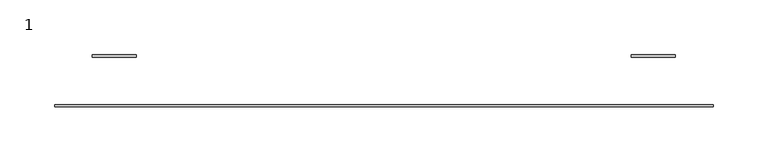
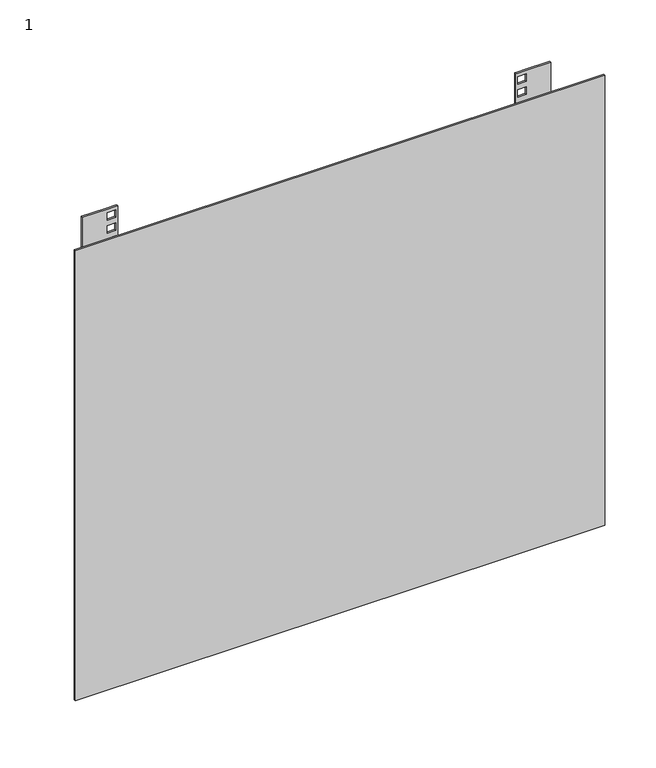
"""IFC4 building model written with IfcOpenShell, lengths in millimetres: proxy geometry, 1 : 12U 600мм металлическая дверь."""

from ifc_helpers import new_model, si_unit, frame, origin, place, context, project, spatial, polyline, outline, extrude, faceted_brep, source, transform, mapped, element, save


def proxy_1_61d2d121(model_context):
    return source(origin(), model_context, "Body", "SolidModel", [
        faceted_brep([(225.3, -252.6777479, 579.4675), (225.3, -254.6777479, 579.4675), (227.55, -254.6777479, 579.4675), (237.05, -254.6777479, 579.4675), (265.3, -254.6777479, 579.4675), (265.3, -252.6777479, 579.4675), (237.05, -252.6777479, 579.4675), (227.55, -252.6777479, 579.4675), (265.3, -252.6777479, 20.4675), (265.3, -254.6777479, 20.4675), (225.3, -254.6777479, 20.4675), (225.3, -252.6777479, 20.4675), (227.55, -254.6777479, 55.0175), (237.05, -254.6777479, 55.0175), (237.05, -254.6777479, 46.0675), (227.55, -254.6777479, 46.0675), (227.55, -254.6777479, 70.6675), (237.05, -254.6777479, 70.6675), (237.05, -254.6777479, 61.7175), (227.55, -254.6777479, 61.7175), (227.55, -254.6777479, 86.3175), (237.05, -254.6777479, 86.3175), (237.05, -254.6777479, 77.3675), (227.55, -254.6777479, 77.3675), (237.05, -254.6777479, 99.4675), (237.05, -254.6777479, 90.5175), (227.55, -254.6777479, 90.5175), (227.55, -254.6777479, 99.4675), (237.05, -254.6777479, 115.1175), (237.05, -254.6777479, 106.1675), (227.55, -254.6777479, 106.1675), (227.55, -254.6777479, 115.1175), (237.05, -254.6777479, 130.7675), (237.05, -254.6777479, 121.8175), (227.55, -254.6777479, 121.8175), (227.55, -254.6777479, 130.7675), (237.05, -254.6777479, 143.9175), (237.05, -254.6777479, 134.9675), (227.55, -254.6777479, 134.9675), (227.55, -254.6777479, 143.9175), (237.05, -254.6777479, 159.5675), (237.05, -254.6777479, 150.6175), (227.55, -254.6777479, 150.6175), (227.55, -254.6777479, 159.5675), (237.05, -254.6777479, 175.2175), (237.05, -254.6777479, 166.2675), (227.55, -254.6777479, 166.2675), (227.55, -254.6777479, 175.2175), (237.05, -254.6777479, 188.3675), (237.05, -254.6777479, 179.4175), (227.55, -254.6777479, 179.4175), (227.55, -254.6777479, 188.3675), (237.05, -254.6777479, 204.0175), (237.05, -254.6777479, 195.0675), (227.55, -254.6777479, 195.0675), (227.55, -254.6777479, 204.0175), (237.05, -254.6777479, 219.6675), (237.05, -254.6777479, 210.7175), (227.55, -254.6777479, 210.7175), (227.55, -254.6777479, 219.6675), (237.05, -254.6777479, 232.8175), (237.05, -254.6777479, 223.8675), (227.55, -254.6777479, 223.8675), (227.55, -254.6777479, 232.8175), (237.05, -254.6777479, 248.4675), (237.05, -254.6777479, 239.5175), (227.55, -254.6777479, 239.5175), (227.55, -254.6777479, 248.4675), (237.05, -254.6777479, 264.1175), (237.05, -254.6777479, 255.1675), (227.55, -254.6777479, 255.1675), (227.55, -254.6777479, 264.1175), (237.05, -254.6777479, 277.2675), (237.05, -254.6777479, 268.3175), (227.55, -254.6777479, 268.3175), (227.55, -254.6777479, 277.2675), (237.05, -254.6777479, 292.9175), (237.05, -254.6777479, 283.9675), (227.55, -254.6777479, 283.9675), (227.55, -254.6777479, 292.9175), (237.05, -254.6777479, 308.5675), (237.05, -254.6777479, 299.6175), (227.55, -254.6777479, 299.6175), (227.55, -254.6777479, 308.5675), (237.05, -254.6777479, 321.7175), (237.05, -254.6777479, 312.7675), (227.55, -254.6777479, 312.7675), (227.55, -254.6777479, 321.7175), (237.05, -254.6777479, 337.3675), (237.05, -254.6777479, 328.4175), (227.55, -254.6777479, 328.4175), (227.55, -254.6777479, 337.3675), (237.05, -254.6777479, 353.0175), (237.05, -254.6777479, 344.0675), (227.55, -254.6777479, 344.0675), (227.55, -254.6777479, 353.0175), (237.05, -254.6777479, 366.1675), (237.05, -254.6777479, 357.2175), (227.55, -254.6777479, 357.2175), (227.55, -254.6777479, 366.1675), (237.05, -254.6777479, 381.8175), (237.05, -254.6777479, 372.8675), (227.55, -254.6777479, 372.8675), (227.55, -254.6777479, 381.8175), (237.05, -254.6777479, 397.4675), (237.05, -254.6777479, 388.5175), (227.55, -254.6777479, 388.5175), (227.55, -254.6777479, 397.4675), (237.05, -254.6777479, 410.6175), (237.05, -254.6777479, 401.6675), (227.55, -254.6777479, 401.6675), (227.55, -254.6777479, 410.6175), (237.05, -254.6777479, 426.2675), (237.05, -254.6777479, 417.3175), (227.55, -254.6777479, 417.3175), (227.55, -254.6777479, 426.2675), (237.05, -254.6777479, 441.9175), (237.05, -254.6777479, 432.9675), (227.55, -254.6777479, 432.9675), (227.55, -254.6777479, 441.9175), (237.05, -254.6777479, 455.0675), (237.05, -254.6777479, 446.1175), (227.55, -254.6777479, 446.1175), (227.55, -254.6777479, 455.0675), (237.05, -254.6777479, 470.7175), (237.05, -254.6777479, 461.7675), (227.55, -254.6777479, 461.7675), (227.55, -254.6777479, 470.7175), (237.05, -254.6777479, 486.3675), (237.05, -254.6777479, 477.4175), (227.55, -254.6777479, 477.4175), (227.55, -254.6777479, 486.3675), (237.05, -254.6777479, 499.5175), (237.05, -254.6777479, 490.5675), (227.55, -254.6777479, 490.5675), (227.55, -254.6777479, 499.5175), (237.05, -254.6777479, 515.1675), (237.05, -254.6777479, 506.2175), (227.55, -254.6777479, 506.2175), (227.55, -254.6777479, 515.1675), (237.05, -254.6777479, 530.8175), (237.05, -254.6777479, 521.8675), (227.55, -254.6777479, 521.8675), (227.55, -254.6777479, 530.8175), (237.05, -254.6777479, 543.9675), (237.05, -254.6777479, 535.0175), (227.55, -254.6777479, 535.0175), (227.55, -254.6777479, 543.9675), (237.05, -254.6777479, 559.6175), (237.05, -254.6777479, 550.6675), (227.55, -254.6777479, 550.6675), (227.55, -254.6777479, 559.6175), (237.05, -254.6777479, 575.2675), (237.05, -254.6777479, 566.3175), (227.55, -254.6777479, 566.3175), (227.55, -254.6777479, 575.2675), (237.05, -252.6777479, 55.0175), (227.55, -252.6777479, 55.0175), (227.55, -252.6777479, 46.0675), (237.05, -252.6777479, 46.0675), (237.05, -252.6777479, 70.6675), (227.55, -252.6777479, 70.6675), (227.55, -252.6777479, 61.7175), (237.05, -252.6777479, 61.7175), (237.05, -252.6777479, 86.3175), (227.55, -252.6777479, 86.3175), (227.55, -252.6777479, 77.3675), (237.05, -252.6777479, 77.3675), (237.05, -252.6777479, 90.5175), (237.05, -252.6777479, 99.4675), (227.55, -252.6777479, 99.4675), (227.55, -252.6777479, 90.5175), (237.05, -252.6777479, 106.1675), (237.05, -252.6777479, 115.1175), (227.55, -252.6777479, 115.1175), (227.55, -252.6777479, 106.1675), (237.05, -252.6777479, 121.8175), (237.05, -252.6777479, 130.7675), (227.55, -252.6777479, 130.7675), (227.55, -252.6777479, 121.8175), (237.05, -252.6777479, 134.9675), (237.05, -252.6777479, 143.9175), (227.55, -252.6777479, 143.9175), (227.55, -252.6777479, 134.9675), (237.05, -252.6777479, 150.6175), (237.05, -252.6777479, 159.5675), (227.55, -252.6777479, 159.5675), (227.55, -252.6777479, 150.6175), (237.05, -252.6777479, 166.2675), (237.05, -252.6777479, 175.2175), (227.55, -252.6777479, 175.2175), (227.55, -252.6777479, 166.2675), (237.05, -252.6777479, 179.4175), (237.05, -252.6777479, 188.3675), (227.55, -252.6777479, 188.3675), (227.55, -252.6777479, 179.4175), (237.05, -252.6777479, 195.0675), (237.05, -252.6777479, 204.0175), (227.55, -252.6777479, 204.0175), (227.55, -252.6777479, 195.0675), (237.05, -252.6777479, 210.7175), (237.05, -252.6777479, 219.6675), (227.55, -252.6777479, 219.6675), (227.55, -252.6777479, 210.7175), (237.05, -252.6777479, 223.8675), (237.05, -252.6777479, 232.8175), (227.55, -252.6777479, 232.8175), (227.55, -252.6777479, 223.8675), (237.05, -252.6777479, 239.5175), (237.05, -252.6777479, 248.4675), (227.55, -252.6777479, 248.4675), (227.55, -252.6777479, 239.5175), (237.05, -252.6777479, 255.1675), (237.05, -252.6777479, 264.1175), (227.55, -252.6777479, 264.1175), (227.55, -252.6777479, 255.1675), (237.05, -252.6777479, 268.3175), (237.05, -252.6777479, 277.2675), (227.55, -252.6777479, 277.2675), (227.55, -252.6777479, 268.3175), (237.05, -252.6777479, 283.9675), (237.05, -252.6777479, 292.9175), (227.55, -252.6777479, 292.9175), (227.55, -252.6777479, 283.9675), (237.05, -252.6777479, 299.6175), (237.05, -252.6777479, 308.5675), (227.55, -252.6777479, 308.5675), (227.55, -252.6777479, 299.6175), (237.05, -252.6777479, 312.7675), (237.05, -252.6777479, 321.7175), (227.55, -252.6777479, 321.7175), (227.55, -252.6777479, 312.7675), (237.05, -252.6777479, 328.4175), (237.05, -252.6777479, 337.3675), (227.55, -252.6777479, 337.3675), (227.55, -252.6777479, 328.4175), (237.05, -252.6777479, 344.0675), (237.05, -252.6777479, 353.0175), (227.55, -252.6777479, 353.0175), (227.55, -252.6777479, 344.0675), (237.05, -252.6777479, 357.2175), (237.05, -252.6777479, 366.1675), (227.55, -252.6777479, 366.1675), (227.55, -252.6777479, 357.2175), (237.05, -252.6777479, 372.8675), (237.05, -252.6777479, 381.8175), (227.55, -252.6777479, 381.8175), (227.55, -252.6777479, 372.8675), (237.05, -252.6777479, 388.5175), (237.05, -252.6777479, 397.4675), (227.55, -252.6777479, 397.4675), (227.55, -252.6777479, 388.5175), (237.05, -252.6777479, 401.6675), (237.05, -252.6777479, 410.6175), (227.55, -252.6777479, 410.6175), (227.55, -252.6777479, 401.6675), (237.05, -252.6777479, 417.3175), (237.05, -252.6777479, 426.2675), (227.55, -252.6777479, 426.2675), (227.55, -252.6777479, 417.3175), (237.05, -252.6777479, 432.9675), (237.05, -252.6777479, 441.9175), (227.55, -252.6777479, 441.9175), (227.55, -252.6777479, 432.9675), (237.05, -252.6777479, 446.1175), (237.05, -252.6777479, 455.0675), (227.55, -252.6777479, 455.0675), (227.55, -252.6777479, 446.1175), (237.05, -252.6777479, 461.7675), (237.05, -252.6777479, 470.7175), (227.55, -252.6777479, 470.7175), (227.55, -252.6777479, 461.7675), (237.05, -252.6777479, 477.4175), (237.05, -252.6777479, 486.3675), (227.55, -252.6777479, 486.3675), (227.55, -252.6777479, 477.4175), (237.05, -252.6777479, 490.5675), (237.05, -252.6777479, 499.5175), (227.55, -252.6777479, 499.5175), (227.55, -252.6777479, 490.5675), (237.05, -252.6777479, 506.2175), (237.05, -252.6777479, 515.1675), (227.55, -252.6777479, 515.1675), (227.55, -252.6777479, 506.2175), (237.05, -252.6777479, 521.8675), (237.05, -252.6777479, 530.8175), (227.55, -252.6777479, 530.8175), (227.55, -252.6777479, 521.8675), (237.05, -252.6777479, 535.0175), (237.05, -252.6777479, 543.9675), (227.55, -252.6777479, 543.9675), (227.55, -252.6777479, 535.0175), (237.05, -252.6777479, 550.6675), (237.05, -252.6777479, 559.6175), (227.55, -252.6777479, 559.6175), (227.55, -252.6777479, 550.6675), (237.05, -252.6777479, 566.3175), (237.05, -252.6777479, 575.2675), (227.55, -252.6777479, 575.2675), (227.55, -252.6777479, 566.3175)], [[[0, 1, 2, 3, 4, 5, 6, 7]], [[8, 9, 10, 11]], [[5, 4, 9, 8]], [[10, 9, 4, 3, 2, 1], [12, 13, 14, 15], [16, 17, 18, 19], [20, 21, 22, 23], [24, 25, 26, 27], [28, 29, 30, 31], [32, 33, 34, 35], [36, 37, 38, 39], [40, 41, 42, 43], [44, 45, 46, 47], [48, 49, 50, 51], [52, 53, 54, 55], [56, 57, 58, 59], [60, 61, 62, 63], [64, 65, 66, 67], [68, 69, 70, 71], [72, 73, 74, 75], [76, 77, 78, 79], [80, 81, 82, 83], [84, 85, 86, 87], [88, 89, 90, 91], [92, 93, 94, 95], [96, 97, 98, 99], [100, 101, 102, 103], [104, 105, 106, 107], [108, 109, 110, 111], [112, 113, 114, 115], [116, 117, 118, 119], [120, 121, 122, 123], [124, 125, 126, 127], [128, 129, 130, 131], [132, 133, 134, 135], [136, 137, 138, 139], [140, 141, 142, 143], [144, 145, 146, 147], [148, 149, 150, 151], [152, 153, 154, 155]], [[1, 0, 11, 10]], [[8, 11, 0, 7, 6, 5], [156, 157, 158, 159], [160, 161, 162, 163], [164, 165, 166, 167], [168, 169, 170, 171], [172, 173, 174, 175], [176, 177, 178, 179], [180, 181, 182, 183], [184, 185, 186, 187], [188, 189, 190, 191], [192, 193, 194, 195], [196, 197, 198, 199], [200, 201, 202, 203], [204, 205, 206, 207], [208, 209, 210, 211], [212, 213, 214, 215], [216, 217, 218, 219], [220, 221, 222, 223], [224, 225, 226, 227], [228, 229, 230, 231], [232, 233, 234, 235], [236, 237, 238, 239], [240, 241, 242, 243], [244, 245, 246, 247], [248, 249, 250, 251], [252, 253, 254, 255], [256, 257, 258, 259], [260, 261, 262, 263], [264, 265, 266, 267], [268, 269, 270, 271], [272, 273, 274, 275], [276, 277, 278, 279], [280, 281, 282, 283], [284, 285, 286, 287], [288, 289, 290, 291], [292, 293, 294, 295], [296, 297, 298, 299]], [[156, 13, 12, 157]], [[157, 12, 15, 158]], [[158, 15, 14, 159]], [[13, 156, 159, 14]], [[160, 17, 16, 161]], [[161, 16, 19, 162]], [[162, 19, 18, 163]], [[17, 160, 163, 18]], [[164, 21, 20, 165]], [[165, 20, 23, 166]], [[166, 23, 22, 167]], [[21, 164, 167, 22]], [[168, 25, 24, 169]], [[25, 168, 171, 26]], [[26, 171, 170, 27]], [[27, 170, 169, 24]], [[172, 29, 28, 173]], [[29, 172, 175, 30]], [[30, 175, 174, 31]], [[31, 174, 173, 28]], [[176, 33, 32, 177]], [[33, 176, 179, 34]], [[34, 179, 178, 35]], [[35, 178, 177, 32]], [[180, 37, 36, 181]], [[37, 180, 183, 38]], [[38, 183, 182, 39]], [[39, 182, 181, 36]], [[184, 41, 40, 185]], [[41, 184, 187, 42]], [[42, 187, 186, 43]], [[43, 186, 185, 40]], [[188, 45, 44, 189]], [[45, 188, 191, 46]], [[46, 191, 190, 47]], [[47, 190, 189, 44]], [[192, 49, 48, 193]], [[49, 192, 195, 50]], [[50, 195, 194, 51]], [[51, 194, 193, 48]], [[196, 53, 52, 197]], [[53, 196, 199, 54]], [[54, 199, 198, 55]], [[55, 198, 197, 52]], [[200, 57, 56, 201]], [[57, 200, 203, 58]], [[58, 203, 202, 59]], [[59, 202, 201, 56]], [[204, 61, 60, 205]], [[61, 204, 207, 62]], [[62, 207, 206, 63]], [[63, 206, 205, 60]], [[208, 65, 64, 209]], [[65, 208, 211, 66]], [[66, 211, 210, 67]], [[67, 210, 209, 64]], [[212, 69, 68, 213]], [[69, 212, 215, 70]], [[70, 215, 214, 71]], [[71, 214, 213, 68]], [[216, 73, 72, 217]], [[73, 216, 219, 74]], [[74, 219, 218, 75]], [[75, 218, 217, 72]], [[220, 77, 76, 221]], [[77, 220, 223, 78]], [[78, 223, 222, 79]], [[79, 222, 221, 76]], [[224, 81, 80, 225]], [[81, 224, 227, 82]], [[82, 227, 226, 83]], [[83, 226, 225, 80]], [[228, 85, 84, 229]], [[85, 228, 231, 86]], [[86, 231, 230, 87]], [[87, 230, 229, 84]], [[232, 89, 88, 233]], [[89, 232, 235, 90]], [[90, 235, 234, 91]], [[91, 234, 233, 88]], [[236, 93, 92, 237]], [[93, 236, 239, 94]], [[94, 239, 238, 95]], [[95, 238, 237, 92]], [[240, 97, 96, 241]], [[97, 240, 243, 98]], [[98, 243, 242, 99]], [[99, 242, 241, 96]], [[244, 101, 100, 245]], [[101, 244, 247, 102]], [[102, 247, 246, 103]], [[103, 246, 245, 100]], [[248, 105, 104, 249]], [[105, 248, 251, 106]], [[106, 251, 250, 107]], [[107, 250, 249, 104]], [[252, 109, 108, 253]], [[109, 252, 255, 110]], [[110, 255, 254, 111]], [[111, 254, 253, 108]], [[256, 113, 112, 257]], [[113, 256, 259, 114]], [[114, 259, 258, 115]], [[115, 258, 257, 112]], [[260, 117, 116, 261]], [[117, 260, 263, 118]], [[118, 263, 262, 119]], [[119, 262, 261, 116]], [[264, 121, 120, 265]], [[121, 264, 267, 122]], [[122, 267, 266, 123]], [[123, 266, 265, 120]], [[268, 125, 124, 269]], [[125, 268, 271, 126]], [[126, 271, 270, 127]], [[127, 270, 269, 124]], [[272, 129, 128, 273]], [[129, 272, 275, 130]], [[130, 275, 274, 131]], [[131, 274, 273, 128]], [[276, 133, 132, 277]], [[133, 276, 279, 134]], [[134, 279, 278, 135]], [[135, 278, 277, 132]], [[280, 137, 136, 281]], [[137, 280, 283, 138]], [[138, 283, 282, 139]], [[139, 282, 281, 136]], [[284, 141, 140, 285]], [[141, 284, 287, 142]], [[142, 287, 286, 143]], [[143, 286, 285, 140]], [[288, 145, 144, 289]], [[145, 288, 291, 146]], [[146, 291, 290, 147]], [[147, 290, 289, 144]], [[292, 149, 148, 293]], [[149, 292, 295, 150]], [[150, 295, 294, 151]], [[151, 294, 293, 148]], [[296, 153, 152, 297]], [[153, 296, 299, 154]], [[154, 299, 298, 155]], [[155, 298, 297, 152]]]),
        faceted_brep([(-265.7, -252.6777479, 579.4675), (-265.7, -254.6777479, 579.4675), (-237.45, -254.6777479, 579.4675), (-227.95, -254.6777479, 579.4675), (-225.7, -254.6777479, 579.4675), (-225.7, -252.6777479, 579.4675), (-227.95, -252.6777479, 579.4675), (-237.45, -252.6777479, 579.4675), (-265.7, -252.6777479, 20.4675), (-225.7, -252.6777479, 20.4675), (-225.7, -254.6777479, 20.4675), (-265.7, -254.6777479, 20.4675), (-237.45, -254.6777479, 55.0175), (-227.95, -254.6777479, 55.0175), (-227.95, -254.6777479, 46.0675), (-237.45, -254.6777479, 46.0675), (-237.45, -254.6777479, 70.6675), (-227.95, -254.6777479, 70.6675), (-227.95, -254.6777479, 61.7175), (-237.45, -254.6777479, 61.7175), (-237.45, -254.6777479, 86.3175), (-227.95, -254.6777479, 86.3175), (-227.95, -254.6777479, 77.3675), (-237.45, -254.6777479, 77.3675), (-237.45, -254.6777479, 90.5175), (-237.45, -254.6777479, 99.4675), (-227.95, -254.6777479, 99.4675), (-227.95, -254.6777479, 90.5175), (-237.45, -254.6777479, 106.1675), (-237.45, -254.6777479, 115.1175), (-227.95, -254.6777479, 115.1175), (-227.95, -254.6777479, 106.1675), (-237.45, -254.6777479, 121.8175), (-237.45, -254.6777479, 130.7675), (-227.95, -254.6777479, 130.7675), (-227.95, -254.6777479, 121.8175), (-237.45, -254.6777479, 134.9675), (-237.45, -254.6777479, 143.9175), (-227.95, -254.6777479, 143.9175), (-227.95, -254.6777479, 134.9675), (-237.45, -254.6777479, 150.6175), (-237.45, -254.6777479, 159.5675), (-227.95, -254.6777479, 159.5675), (-227.95, -254.6777479, 150.6175), (-237.45, -254.6777479, 166.2675), (-237.45, -254.6777479, 175.2175), (-227.95, -254.6777479, 175.2175), (-227.95, -254.6777479, 166.2675), (-237.45, -254.6777479, 179.4175), (-237.45, -254.6777479, 188.3675), (-227.95, -254.6777479, 188.3675), (-227.95, -254.6777479, 179.4175), (-237.45, -254.6777479, 195.0675), (-237.45, -254.6777479, 204.0175), (-227.95, -254.6777479, 204.0175), (-227.95, -254.6777479, 195.0675), (-237.45, -254.6777479, 210.7175), (-237.45, -254.6777479, 219.6675), (-227.95, -254.6777479, 219.6675), (-227.95, -254.6777479, 210.7175), (-237.45, -254.6777479, 223.8675), (-237.45, -254.6777479, 232.8175), (-227.95, -254.6777479, 232.8175), (-227.95, -254.6777479, 223.8675), (-237.45, -254.6777479, 239.5175), (-237.45, -254.6777479, 248.4675), (-227.95, -254.6777479, 248.4675), (-227.95, -254.6777479, 239.5175), (-237.45, -254.6777479, 255.1675), (-237.45, -254.6777479, 264.1175), (-227.95, -254.6777479, 264.1175), (-227.95, -254.6777479, 255.1675), (-237.45, -254.6777479, 268.3175), (-237.45, -254.6777479, 277.2675), (-227.95, -254.6777479, 277.2675), (-227.95, -254.6777479, 268.3175), (-237.45, -254.6777479, 283.9675), (-237.45, -254.6777479, 292.9175), (-227.95, -254.6777479, 292.9175), (-227.95, -254.6777479, 283.9675), (-237.45, -254.6777479, 299.6175), (-237.45, -254.6777479, 308.5675), (-227.95, -254.6777479, 308.5675), (-227.95, -254.6777479, 299.6175), (-237.45, -254.6777479, 312.7675), (-237.45, -254.6777479, 321.7175), (-227.95, -254.6777479, 321.7175), (-227.95, -254.6777479, 312.7675), (-237.45, -254.6777479, 328.4175), (-237.45, -254.6777479, 337.3675), (-227.95, -254.6777479, 337.3675), (-227.95, -254.6777479, 328.4175), (-237.45, -254.6777479, 344.0675), (-237.45, -254.6777479, 353.0175), (-227.95, -254.6777479, 353.0175), (-227.95, -254.6777479, 344.0675), (-237.45, -254.6777479, 357.2175), (-237.45, -254.6777479, 366.1675), (-227.95, -254.6777479, 366.1675), (-227.95, -254.6777479, 357.2175), (-237.45, -254.6777479, 372.8675), (-237.45, -254.6777479, 381.8175), (-227.95, -254.6777479, 381.8175), (-227.95, -254.6777479, 372.8675), (-237.45, -254.6777479, 388.5175), (-237.45, -254.6777479, 397.4675), (-227.95, -254.6777479, 397.4675), (-227.95, -254.6777479, 388.5175), (-237.45, -254.6777479, 401.6675), (-237.45, -254.6777479, 410.6175), (-227.95, -254.6777479, 410.6175), (-227.95, -254.6777479, 401.6675), (-237.45, -254.6777479, 417.3175), (-237.45, -254.6777479, 426.2675), (-227.95, -254.6777479, 426.2675), (-227.95, -254.6777479, 417.3175), (-237.45, -254.6777479, 432.9675), (-237.45, -254.6777479, 441.9175), (-227.95, -254.6777479, 441.9175), (-227.95, -254.6777479, 432.9675), (-237.45, -254.6777479, 446.1175), (-237.45, -254.6777479, 455.0675), (-227.95, -254.6777479, 455.0675), (-227.95, -254.6777479, 446.1175), (-237.45, -254.6777479, 461.7675), (-237.45, -254.6777479, 470.7175), (-227.95, -254.6777479, 470.7175), (-227.95, -254.6777479, 461.7675), (-237.45, -254.6777479, 477.4175), (-237.45, -254.6777479, 486.3675), (-227.95, -254.6777479, 486.3675), (-227.95, -254.6777479, 477.4175), (-237.45, -254.6777479, 490.5675), (-237.45, -254.6777479, 499.5175), (-227.95, -254.6777479, 499.5175), (-227.95, -254.6777479, 490.5675), (-237.45, -254.6777479, 506.2175), (-237.45, -254.6777479, 515.1675), (-227.95, -254.6777479, 515.1675), (-227.95, -254.6777479, 506.2175), (-237.45, -254.6777479, 521.8675), (-237.45, -254.6777479, 530.8175), (-227.95, -254.6777479, 530.8175), (-227.95, -254.6777479, 521.8675), (-237.45, -254.6777479, 535.0175), (-237.45, -254.6777479, 543.9675), (-227.95, -254.6777479, 543.9675), (-227.95, -254.6777479, 535.0175), (-237.45, -254.6777479, 550.6675), (-237.45, -254.6777479, 559.6175), (-227.95, -254.6777479, 559.6175), (-227.95, -254.6777479, 550.6675), (-237.45, -254.6777479, 566.3175), (-237.45, -254.6777479, 575.2675), (-227.95, -254.6777479, 575.2675), (-227.95, -254.6777479, 566.3175), (-227.95, -252.6777479, 55.0175), (-237.45, -252.6777479, 55.0175), (-237.45, -252.6777479, 46.0675), (-227.95, -252.6777479, 46.0675), (-227.95, -252.6777479, 70.6675), (-237.45, -252.6777479, 70.6675), (-237.45, -252.6777479, 61.7175), (-227.95, -252.6777479, 61.7175), (-227.95, -252.6777479, 86.3175), (-237.45, -252.6777479, 86.3175), (-237.45, -252.6777479, 77.3675), (-227.95, -252.6777479, 77.3675), (-237.45, -252.6777479, 99.4675), (-237.45, -252.6777479, 90.5175), (-227.95, -252.6777479, 90.5175), (-227.95, -252.6777479, 99.4675), (-237.45, -252.6777479, 115.1175), (-237.45, -252.6777479, 106.1675), (-227.95, -252.6777479, 106.1675), (-227.95, -252.6777479, 115.1175), (-237.45, -252.6777479, 130.7675), (-237.45, -252.6777479, 121.8175), (-227.95, -252.6777479, 121.8175), (-227.95, -252.6777479, 130.7675), (-237.45, -252.6777479, 143.9175), (-237.45, -252.6777479, 134.9675), (-227.95, -252.6777479, 134.9675), (-227.95, -252.6777479, 143.9175), (-237.45, -252.6777479, 159.5675), (-237.45, -252.6777479, 150.6175), (-227.95, -252.6777479, 150.6175), (-227.95, -252.6777479, 159.5675), (-237.45, -252.6777479, 175.2175), (-237.45, -252.6777479, 166.2675), (-227.95, -252.6777479, 166.2675), (-227.95, -252.6777479, 175.2175), (-237.45, -252.6777479, 188.3675), (-237.45, -252.6777479, 179.4175), (-227.95, -252.6777479, 179.4175), (-227.95, -252.6777479, 188.3675), (-237.45, -252.6777479, 204.0175), (-237.45, -252.6777479, 195.0675), (-227.95, -252.6777479, 195.0675), (-227.95, -252.6777479, 204.0175), (-237.45, -252.6777479, 219.6675), (-237.45, -252.6777479, 210.7175), (-227.95, -252.6777479, 210.7175), (-227.95, -252.6777479, 219.6675), (-237.45, -252.6777479, 232.8175), (-237.45, -252.6777479, 223.8675), (-227.95, -252.6777479, 223.8675), (-227.95, -252.6777479, 232.8175), (-237.45, -252.6777479, 248.4675), (-237.45, -252.6777479, 239.5175), (-227.95, -252.6777479, 239.5175), (-227.95, -252.6777479, 248.4675), (-237.45, -252.6777479, 264.1175), (-237.45, -252.6777479, 255.1675), (-227.95, -252.6777479, 255.1675), (-227.95, -252.6777479, 264.1175), (-237.45, -252.6777479, 277.2675), (-237.45, -252.6777479, 268.3175), (-227.95, -252.6777479, 268.3175), (-227.95, -252.6777479, 277.2675), (-237.45, -252.6777479, 292.9175), (-237.45, -252.6777479, 283.9675), (-227.95, -252.6777479, 283.9675), (-227.95, -252.6777479, 292.9175), (-237.45, -252.6777479, 308.5675), (-237.45, -252.6777479, 299.6175), (-227.95, -252.6777479, 299.6175), (-227.95, -252.6777479, 308.5675), (-237.45, -252.6777479, 321.7175), (-237.45, -252.6777479, 312.7675), (-227.95, -252.6777479, 312.7675), (-227.95, -252.6777479, 321.7175), (-237.45, -252.6777479, 337.3675), (-237.45, -252.6777479, 328.4175), (-227.95, -252.6777479, 328.4175), (-227.95, -252.6777479, 337.3675), (-237.45, -252.6777479, 353.0175), (-237.45, -252.6777479, 344.0675), (-227.95, -252.6777479, 344.0675), (-227.95, -252.6777479, 353.0175), (-237.45, -252.6777479, 366.1675), (-237.45, -252.6777479, 357.2175), (-227.95, -252.6777479, 357.2175), (-227.95, -252.6777479, 366.1675), (-237.45, -252.6777479, 381.8175), (-237.45, -252.6777479, 372.8675), (-227.95, -252.6777479, 372.8675), (-227.95, -252.6777479, 381.8175), (-237.45, -252.6777479, 397.4675), (-237.45, -252.6777479, 388.5175), (-227.95, -252.6777479, 388.5175), (-227.95, -252.6777479, 397.4675), (-237.45, -252.6777479, 410.6175), (-237.45, -252.6777479, 401.6675), (-227.95, -252.6777479, 401.6675), (-227.95, -252.6777479, 410.6175), (-237.45, -252.6777479, 426.2675), (-237.45, -252.6777479, 417.3175), (-227.95, -252.6777479, 417.3175), (-227.95, -252.6777479, 426.2675), (-237.45, -252.6777479, 441.9175), (-237.45, -252.6777479, 432.9675), (-227.95, -252.6777479, 432.9675), (-227.95, -252.6777479, 441.9175), (-237.45, -252.6777479, 455.0675), (-237.45, -252.6777479, 446.1175), (-227.95, -252.6777479, 446.1175), (-227.95, -252.6777479, 455.0675), (-237.45, -252.6777479, 470.7175), (-237.45, -252.6777479, 461.7675), (-227.95, -252.6777479, 461.7675), (-227.95, -252.6777479, 470.7175), (-237.45, -252.6777479, 486.3675), (-237.45, -252.6777479, 477.4175), (-227.95, -252.6777479, 477.4175), (-227.95, -252.6777479, 486.3675), (-237.45, -252.6777479, 499.5175), (-237.45, -252.6777479, 490.5675), (-227.95, -252.6777479, 490.5675), (-227.95, -252.6777479, 499.5175), (-237.45, -252.6777479, 515.1675), (-237.45, -252.6777479, 506.2175), (-227.95, -252.6777479, 506.2175), (-227.95, -252.6777479, 515.1675), (-237.45, -252.6777479, 530.8175), (-237.45, -252.6777479, 521.8675), (-227.95, -252.6777479, 521.8675), (-227.95, -252.6777479, 530.8175), (-237.45, -252.6777479, 543.9675), (-237.45, -252.6777479, 535.0175), (-227.95, -252.6777479, 535.0175), (-227.95, -252.6777479, 543.9675), (-237.45, -252.6777479, 559.6175), (-237.45, -252.6777479, 550.6675), (-227.95, -252.6777479, 550.6675), (-227.95, -252.6777479, 559.6175), (-237.45, -252.6777479, 575.2675), (-237.45, -252.6777479, 566.3175), (-227.95, -252.6777479, 566.3175), (-227.95, -252.6777479, 575.2675)], [[[0, 1, 2, 3, 4, 5, 6, 7]], [[8, 9, 10, 11]], [[1, 0, 8, 11]], [[11, 10, 4, 3, 2, 1], [12, 13, 14, 15], [16, 17, 18, 19], [20, 21, 22, 23], [24, 25, 26, 27], [28, 29, 30, 31], [32, 33, 34, 35], [36, 37, 38, 39], [40, 41, 42, 43], [44, 45, 46, 47], [48, 49, 50, 51], [52, 53, 54, 55], [56, 57, 58, 59], [60, 61, 62, 63], [64, 65, 66, 67], [68, 69, 70, 71], [72, 73, 74, 75], [76, 77, 78, 79], [80, 81, 82, 83], [84, 85, 86, 87], [88, 89, 90, 91], [92, 93, 94, 95], [96, 97, 98, 99], [100, 101, 102, 103], [104, 105, 106, 107], [108, 109, 110, 111], [112, 113, 114, 115], [116, 117, 118, 119], [120, 121, 122, 123], [124, 125, 126, 127], [128, 129, 130, 131], [132, 133, 134, 135], [136, 137, 138, 139], [140, 141, 142, 143], [144, 145, 146, 147], [148, 149, 150, 151], [152, 153, 154, 155]], [[5, 4, 10, 9]], [[9, 8, 0, 7, 6, 5], [156, 157, 158, 159], [160, 161, 162, 163], [164, 165, 166, 167], [168, 169, 170, 171], [172, 173, 174, 175], [176, 177, 178, 179], [180, 181, 182, 183], [184, 185, 186, 187], [188, 189, 190, 191], [192, 193, 194, 195], [196, 197, 198, 199], [200, 201, 202, 203], [204, 205, 206, 207], [208, 209, 210, 211], [212, 213, 214, 215], [216, 217, 218, 219], [220, 221, 222, 223], [224, 225, 226, 227], [228, 229, 230, 231], [232, 233, 234, 235], [236, 237, 238, 239], [240, 241, 242, 243], [244, 245, 246, 247], [248, 249, 250, 251], [252, 253, 254, 255], [256, 257, 258, 259], [260, 261, 262, 263], [264, 265, 266, 267], [268, 269, 270, 271], [272, 273, 274, 275], [276, 277, 278, 279], [280, 281, 282, 283], [284, 285, 286, 287], [288, 289, 290, 291], [292, 293, 294, 295], [296, 297, 298, 299]], [[156, 13, 12, 157]], [[13, 156, 159, 14]], [[14, 159, 158, 15]], [[15, 158, 157, 12]], [[160, 17, 16, 161]], [[17, 160, 163, 18]], [[18, 163, 162, 19]], [[19, 162, 161, 16]], [[164, 21, 20, 165]], [[21, 164, 167, 22]], [[22, 167, 166, 23]], [[23, 166, 165, 20]], [[168, 25, 24, 169]], [[169, 24, 27, 170]], [[170, 27, 26, 171]], [[25, 168, 171, 26]], [[172, 29, 28, 173]], [[173, 28, 31, 174]], [[174, 31, 30, 175]], [[29, 172, 175, 30]], [[176, 33, 32, 177]], [[177, 32, 35, 178]], [[178, 35, 34, 179]], [[33, 176, 179, 34]], [[180, 37, 36, 181]], [[181, 36, 39, 182]], [[182, 39, 38, 183]], [[37, 180, 183, 38]], [[184, 41, 40, 185]], [[185, 40, 43, 186]], [[186, 43, 42, 187]], [[41, 184, 187, 42]], [[188, 45, 44, 189]], [[189, 44, 47, 190]], [[190, 47, 46, 191]], [[45, 188, 191, 46]], [[192, 49, 48, 193]], [[193, 48, 51, 194]], [[194, 51, 50, 195]], [[49, 192, 195, 50]], [[196, 53, 52, 197]], [[197, 52, 55, 198]], [[198, 55, 54, 199]], [[53, 196, 199, 54]], [[200, 57, 56, 201]], [[201, 56, 59, 202]], [[202, 59, 58, 203]], [[57, 200, 203, 58]], [[204, 61, 60, 205]], [[205, 60, 63, 206]], [[206, 63, 62, 207]], [[61, 204, 207, 62]], [[208, 65, 64, 209]], [[209, 64, 67, 210]], [[210, 67, 66, 211]], [[65, 208, 211, 66]], [[212, 69, 68, 213]], [[213, 68, 71, 214]], [[214, 71, 70, 215]], [[69, 212, 215, 70]], [[216, 73, 72, 217]], [[217, 72, 75, 218]], [[218, 75, 74, 219]], [[73, 216, 219, 74]], [[220, 77, 76, 221]], [[221, 76, 79, 222]], [[222, 79, 78, 223]], [[77, 220, 223, 78]], [[224, 81, 80, 225]], [[225, 80, 83, 226]], [[226, 83, 82, 227]], [[81, 224, 227, 82]], [[228, 85, 84, 229]], [[229, 84, 87, 230]], [[230, 87, 86, 231]], [[85, 228, 231, 86]], [[232, 89, 88, 233]], [[233, 88, 91, 234]], [[234, 91, 90, 235]], [[89, 232, 235, 90]], [[236, 93, 92, 237]], [[237, 92, 95, 238]], [[238, 95, 94, 239]], [[93, 236, 239, 94]], [[240, 97, 96, 241]], [[241, 96, 99, 242]], [[242, 99, 98, 243]], [[97, 240, 243, 98]], [[244, 101, 100, 245]], [[245, 100, 103, 246]], [[246, 103, 102, 247]], [[101, 244, 247, 102]], [[248, 105, 104, 249]], [[249, 104, 107, 250]], [[250, 107, 106, 251]], [[105, 248, 251, 106]], [[252, 109, 108, 253]], [[253, 108, 111, 254]], [[254, 111, 110, 255]], [[109, 252, 255, 110]], [[256, 113, 112, 257]], [[257, 112, 115, 258]], [[258, 115, 114, 259]], [[113, 256, 259, 114]], [[260, 117, 116, 261]], [[261, 116, 119, 262]], [[262, 119, 118, 263]], [[117, 260, 263, 118]], [[264, 121, 120, 265]], [[265, 120, 123, 266]], [[266, 123, 122, 267]], [[121, 264, 267, 122]], [[268, 125, 124, 269]], [[269, 124, 127, 270]], [[270, 127, 126, 271]], [[125, 268, 271, 126]], [[272, 129, 128, 273]], [[273, 128, 131, 274]], [[274, 131, 130, 275]], [[129, 272, 275, 130]], [[276, 133, 132, 277]], [[277, 132, 135, 278]], [[278, 135, 134, 279]], [[133, 276, 279, 134]], [[280, 137, 136, 281]], [[281, 136, 139, 282]], [[282, 139, 138, 283]], [[137, 280, 283, 138]], [[284, 141, 140, 285]], [[285, 140, 143, 286]], [[286, 143, 142, 287]], [[141, 284, 287, 142]], [[288, 145, 144, 289]], [[289, 144, 147, 290]], [[290, 147, 146, 291]], [[145, 288, 291, 146]], [[292, 149, 148, 293]], [[293, 148, 151, 294]], [[294, 151, 150, 295]], [[149, 292, 295, 150]], [[296, 153, 152, 297]], [[297, 152, 155, 298]], [[298, 155, 154, 299]], [[153, 296, 299, 154]]]),
        extrude(outline(polyline([(-300.0, -298.0), (300.0, -298.0), (300.0, -300.0), (-300.0, -300.0), (-300.0, -298.0)])), frame((0.0, 0.0, 40.0), z_axis=(0.0, 0.0, 1.0), x_axis=(1.0, 0.0, 0.0)), (0.0, 0.0, 1.0), 539.0),
    ])


if __name__ == "__main__":
    model = new_model("IFC4")
    model_context = context("Model", 3, world=origin())
    ifc_project = project(units=[si_unit("LENGTHUNIT", "METRE", prefix="MILLI")], contexts=[model_context])
    site = spatial("IfcSite", under=ifc_project)
    building = spatial("IfcBuilding", under=site)
    placement = place(None, origin())
    proxy_1_shape = proxy_1_61d2d121(model_context)
    element("IfcBuildingElementProxy", 1, Name="1 : 12U 600мм металлическая дверь", ObjectType="1 : 12U 600мм металлическая дверь", at=placement, inside=building, context=model_context, shape_type="MappedRepresentation", body=[
        mapped(proxy_1_shape, transform((0.0, 0.0, 0.0), x_axis=(1.0, 0.0, 0.0), y_axis=(0.0, 1.0, 0.0), z_axis=(0.0, 0.0, 1.0))),
    ])
    save(model, "model.ifc")
